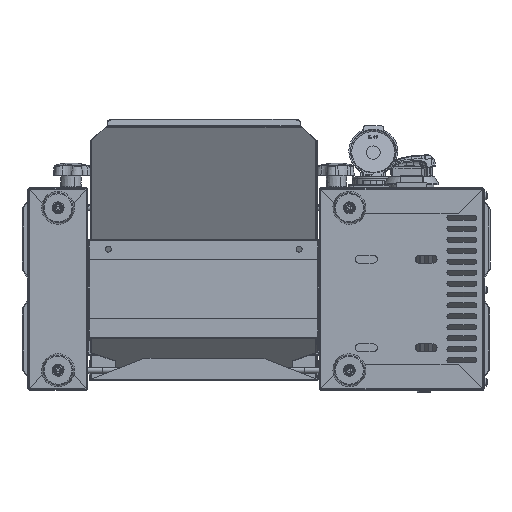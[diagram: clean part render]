
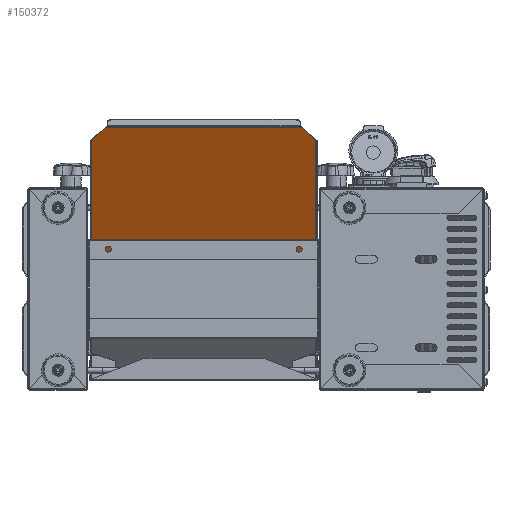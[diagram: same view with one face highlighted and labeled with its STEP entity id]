
A CAD part, front view. The second image highlights one B-rep face of the part: STEP entity #150372.
In plain terms, the highlighted planar face has unit normal (0, -0.874, -0.485).
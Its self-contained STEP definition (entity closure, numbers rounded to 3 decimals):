
#3850 = VERTEX_POINT ( 'NONE', #215989 ) ;
#6051 = LINE ( 'NONE', #80568, #127210 ) ;
#6789 = EDGE_CURVE ( 'NONE', #46882, #96391, #156085, .T. ) ;
#6891 = VECTOR ( 'NONE', #157387, 1000. ) ;
#8072 = VECTOR ( 'NONE', #133978, 1000. ) ;
#8750 = ORIENTED_EDGE ( 'NONE', *, *, #84209, .F. ) ;
#9774 = AXIS2_PLACEMENT_3D ( 'NONE', #95039, #27360, #150943 ) ;
#10634 = DIRECTION ( 'NONE',  ( 0., 0.485, -0.874 ) ) ;
#11378 = CARTESIAN_POINT ( 'NONE',  ( 214.1, -295., 162.635 ) ) ;
#14176 = ORIENTED_EDGE ( 'NONE', *, *, #17408, .T. ) ;
#14779 = CARTESIAN_POINT ( 'NONE',  ( 228.9, -178.743, -46.873 ) ) ;
#17408 = EDGE_CURVE ( 'NONE', #101237, #200675, #6051, .T. ) ;
#18117 = ORIENTED_EDGE ( 'NONE', *, *, #75298, .T. ) ;
#21524 = VECTOR ( 'NONE', #211783, 1000. ) ;
#23267 = CARTESIAN_POINT ( 'NONE',  ( 2.5, -178.743, -46.873 ) ) ;
#24731 = ORIENTED_EDGE ( 'NONE', *, *, #150753, .F. ) ;
#24992 = ORIENTED_EDGE ( 'NONE', *, *, #38151, .F. ) ;
#26746 = VERTEX_POINT ( 'NONE', #11378 ) ;
#27360 = DIRECTION ( 'NONE',  ( 0., 0.874, 0.485 ) ) ;
#30866 = EDGE_CURVE ( 'NONE', #214343, #75711, #121005, .T. ) ;
#33983 = DIRECTION ( 'NONE',  ( -1., 0., 0. ) ) ;
#34958 = CARTESIAN_POINT ( 'NONE',  ( 228.15, -288.183, 150.35 ) ) ;
#35404 = VECTOR ( 'NONE', #33983, 1000. ) ;
#36810 = EDGE_CURVE ( 'NONE', #200675, #214343, #199230, .T. ) ;
#38151 = EDGE_CURVE ( 'NONE', #101237, #46882, #202407, .T. ) ;
#46882 = VERTEX_POINT ( 'NONE', #129580 ) ;
#53384 = DIRECTION ( 'NONE',  ( 1., 0., 0. ) ) ;
#57525 = CARTESIAN_POINT ( 'NONE',  ( 18.4, -295., 162.635 ) ) ;
#75298 = EDGE_CURVE ( 'NONE', #3850, #26746, #143338, .T. ) ;
#75711 = VERTEX_POINT ( 'NONE', #134434 ) ;
#79834 = FACE_OUTER_BOUND ( 'NONE', #180874, .T. ) ;
#80568 = CARTESIAN_POINT ( 'NONE',  ( 3.6, -287.285, 148.732 ) ) ;
#84209 = EDGE_CURVE ( 'NONE', #96391, #26746, #109286, .T. ) ;
#95039 = CARTESIAN_POINT ( 'NONE',  ( 2.5, -178.696, -46.958 ) ) ;
#96391 = VERTEX_POINT ( 'NONE', #57525 ) ;
#101237 = VERTEX_POINT ( 'NONE', #129218 ) ;
#109286 = LINE ( 'NONE', #162873, #121433 ) ;
#113920 = CARTESIAN_POINT ( 'NONE',  ( 2.5, -287.285, 148.732 ) ) ;
#121005 = LINE ( 'NONE', #192026, #21524 ) ;
#121433 = VECTOR ( 'NONE', #53384, 1000. ) ;
#127210 = VECTOR ( 'NONE', #10634, 1000. ) ;
#129218 = CARTESIAN_POINT ( 'NONE',  ( 3.6, -287.285, 148.732 ) ) ;
#129580 = CARTESIAN_POINT ( 'NONE',  ( 2.5, -287.285, 148.732 ) ) ;
#132832 = VECTOR ( 'NONE', #150066, 1000. ) ;
#133978 = DIRECTION ( 'NONE',  ( 0.707, -0.343, 0.618 ) ) ;
#134239 = ORIENTED_EDGE ( 'NONE', *, *, #6789, .F. ) ;
#134434 = CARTESIAN_POINT ( 'NONE',  ( 228.9, -287.285, 148.732 ) ) ;
#139633 = ORIENTED_EDGE ( 'NONE', *, *, #36810, .T. ) ;
#143338 = LINE ( 'NONE', #34958, #6891 ) ;
#146840 = DIRECTION ( 'NONE',  ( 1., 0., 0. ) ) ;
#150066 = DIRECTION ( 'NONE',  ( -1., 0., 0. ) ) ;
#150372 = ADVANCED_FACE ( 'NONE', ( #79834 ), #170660, .F. ) ;
#150753 = EDGE_CURVE ( 'NONE', #3850, #75711, #159876, .T. ) ;
#150943 = DIRECTION ( 'NONE',  ( 1., 0., 0. ) ) ;
#156085 = LINE ( 'NONE', #209578, #8072 ) ;
#157387 = DIRECTION ( 'NONE',  ( -0.707, -0.343, 0.618 ) ) ;
#159876 = LINE ( 'NONE', #161000, #35404 ) ;
#161000 = CARTESIAN_POINT ( 'NONE',  ( 2.5, -287.285, 148.732 ) ) ;
#161368 = CARTESIAN_POINT ( 'NONE',  ( 3.6, -178.743, -46.873 ) ) ;
#162800 = ORIENTED_EDGE ( 'NONE', *, *, #30866, .T. ) ;
#162873 = CARTESIAN_POINT ( 'NONE',  ( 2.5, -295., 162.635 ) ) ;
#170660 = PLANE ( 'NONE',  #9774 ) ;
#180874 = EDGE_LOOP ( 'NONE', ( #24992, #14176, #139633, #162800, #24731, #18117, #8750, #134239 ) ) ;
#192026 = CARTESIAN_POINT ( 'NONE',  ( 228.9, -178.743, -46.873 ) ) ;
#199230 = LINE ( 'NONE', #23267, #210950 ) ;
#200675 = VERTEX_POINT ( 'NONE', #161368 ) ;
#202407 = LINE ( 'NONE', #113920, #132832 ) ;
#209578 = CARTESIAN_POINT ( 'NONE',  ( 2.5, -287.285, 148.732 ) ) ;
#210950 = VECTOR ( 'NONE', #146840, 1000. ) ;
#211783 = DIRECTION ( 'NONE',  ( 0., -0.485, 0.874 ) ) ;
#214343 = VERTEX_POINT ( 'NONE', #14779 ) ;
#215989 = CARTESIAN_POINT ( 'NONE',  ( 230., -287.285, 148.732 ) ) ;
